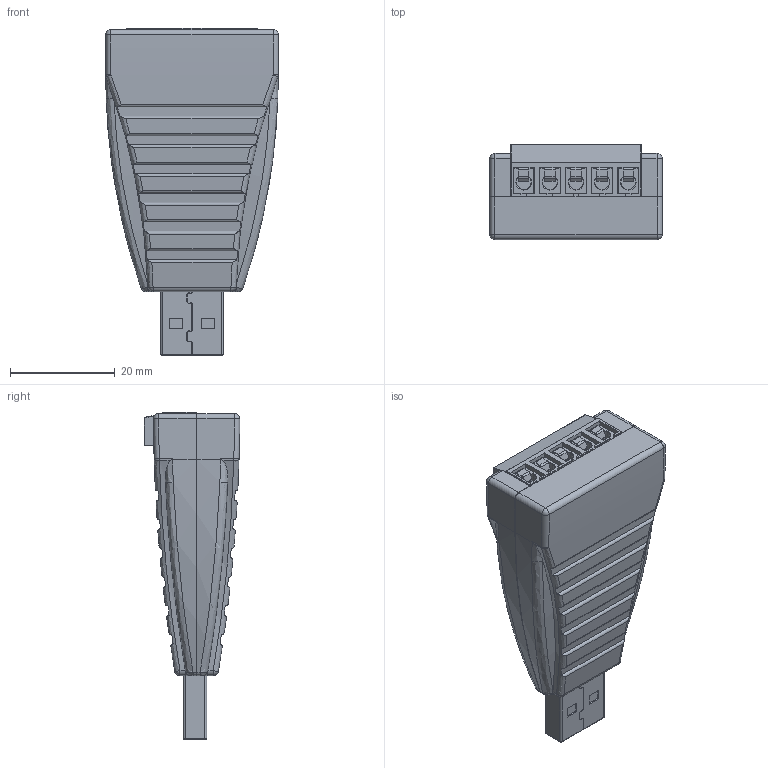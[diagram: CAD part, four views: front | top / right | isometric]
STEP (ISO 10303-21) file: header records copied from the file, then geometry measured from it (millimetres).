
FILE_DESCRIPTION(/* description */ (''),/* implementation_level */ '2;1');
FILE_NAME(/* name */ 'C:/Users/Leo/Desktop/AA CoolGear CADs/US-482422/US-482422 Model3D LPV1.step',/* time_stamp */ '2021-05-28T12:07:53-04:00',/* author */ (''),/* organization */ (''),/* preprocessor_version */ 'ST-DEVELOPER v18.1',/* originating_system */ 'Autodesk Translation Framework v10.9.0.1377',/* authorisation */ '');
FILE_SCHEMA (('AUTOMOTIVE_DESIGN { 1 0 10303 214 3 1 1 }'));
Length unit declared in the file: millimetre
Products named in the file (8): US-482422; Terminal 5 holes srew v1; USB-A Right  Angle Solder Plug v1; USB-A Right Angle Solder Plug Shell; USB-A Right Angle Solder Plug Inlay; USB-A Right Angle Solder Plug Contact 1; USB-A Right Angle Solder Plug Contact 2; Component18
Assembly tree (9 placements, depth 3):
  US-482422
    Terminal 5 holes srew v1
    USB-A Right  Angle Solder Plug v1
      USB-A Right Angle Solder Plug Shell
      USB-A Right Angle Solder Plug Inlay
      USB-A Right Angle Solder Plug Contact 1  x2
      USB-A Right Angle Solder Plug Contact 2  x2
    Component18
Bounding box: 33 x 18.25 x 62.67 mm (x, y, z)
Volume: 9723.9 mm3; surface area: 14304 mm2
Topology: 1 solids, 8 shells, 1225 faces, 3182 edges, 1940 vertices
Faces by surface type: plane 590, cylinder 383, bspline 131, torus 68, sphere 31, cone 22
Full cylindrical faces by diameter (mm): 1 x7, 1.5 x10, 2.8 x5, 3.3 x5, 3.5 x5
Entity records: 45470 total; most frequent: CARTESIAN_POINT 16114, ORIENTED_EDGE 6288, DIRECTION 5771, EDGE_CURVE 3144, VERTEX_POINT 1948, AXIS2_PLACEMENT_3D 1934, LINE 1903, VECTOR 1903
